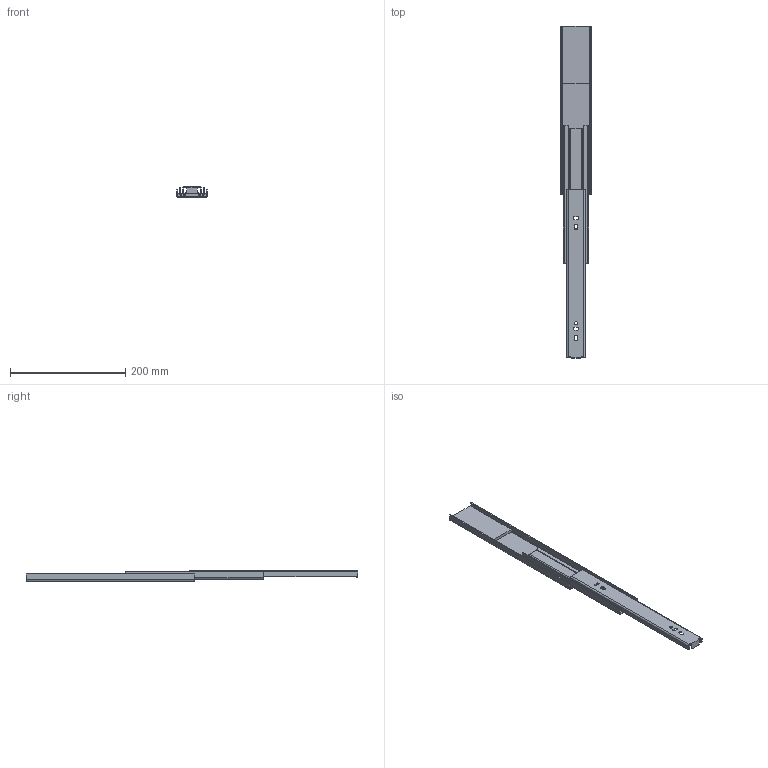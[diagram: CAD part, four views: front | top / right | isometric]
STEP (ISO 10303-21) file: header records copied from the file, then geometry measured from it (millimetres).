
FILE_DESCRIPTION((''),'2;1');
FILE_NAME('78A01_300_OPEN_ASM','2020-09-01T15:00:45',('T170334'),(''),'CREO PARAMETRIC BY PTC INC, 2018260','CREO PARAMETRIC BY PTC INC, 2018260','');
FILE_SCHEMA(('CONFIG_CONTROL_DESIGN'));
Length unit declared in the file: millimetre
Products named in the file (5): OUT_300; MID_300; IN_300; MECHANISM_O; 78A01_300_OPEN_ASM
Assembly tree (4 placements, depth 2):
  78A01_300_OPEN_ASM
    OUT_300
    MID_300
    IN_300
    MECHANISM_O
Bounding box: 53.32 x 576.4 x 18.84 mm (x, y, z)
Volume: 121933.4 mm3; surface area: 117515.6 mm2
Topology: 4 solids, 4 shells, 134 faces, 374 edges, 248 vertices
Faces by surface type: plane 72, cylinder 62
Entity records: 4517 total; most frequent: CARTESIAN_POINT 811, DIRECTION 768, ORIENTED_EDGE 748, EDGE_CURVE 374, AXIS2_PLACEMENT_3D 259, VECTOR 250, LINE 250, VERTEX_POINT 248
